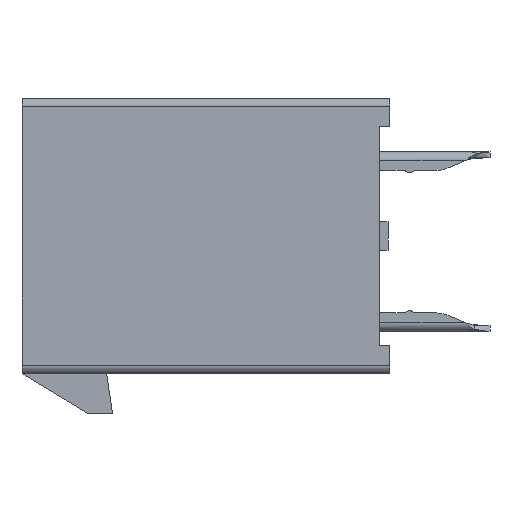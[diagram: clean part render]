
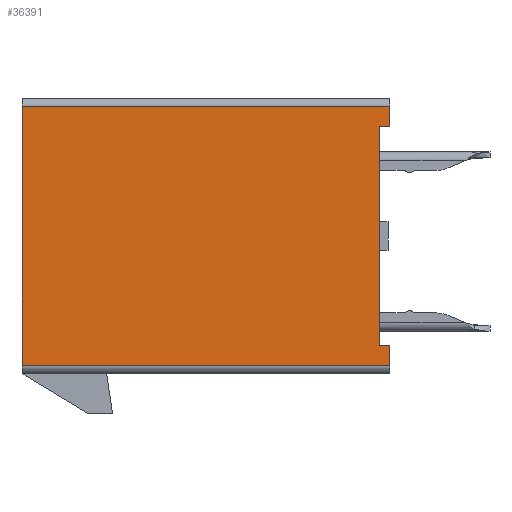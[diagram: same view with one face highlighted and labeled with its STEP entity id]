
A CAD part, left-side view. The second image highlights one B-rep face of the part: STEP entity #36391.
In plain terms, the highlighted planar face has unit normal (-1, 0, 0).
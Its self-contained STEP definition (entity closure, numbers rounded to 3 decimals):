
#1=DIRECTION('',(0.,0.,-1.));
#2=VECTOR('',#1,9.);
#3=CARTESIAN_POINT('',(-10.484,16.45,-0.3));
#4=LINE('',#3,#2);
#207=DIRECTION('',(0.,0.,-1.));
#208=VECTOR('',#207,0.7);
#209=CARTESIAN_POINT('',(-10.484,3.65,-0.3));
#210=LINE('',#209,#208);
#211=DIRECTION('',(0.,1.,0.));
#212=VECTOR('',#211,0.35);
#213=CARTESIAN_POINT('',(-10.484,3.65,-1.));
#214=LINE('',#213,#212);
#215=DIRECTION('',(0.,-1.,0.));
#216=VECTOR('',#215,0.35);
#217=CARTESIAN_POINT('',(-10.484,4.,-8.6));
#218=LINE('',#217,#216);
#219=DIRECTION('',(0.,0.,-1.));
#220=VECTOR('',#219,0.7);
#221=CARTESIAN_POINT('',(-10.484,3.65,-8.6));
#222=LINE('',#221,#220);
#227=DIRECTION('',(0.,1.,0.));
#228=VECTOR('',#227,12.8);
#229=CARTESIAN_POINT('',(-10.484,3.65,-0.3));
#230=LINE('',#229,#228);
#631=DIRECTION('',(0.,-1.,0.));
#632=VECTOR('',#631,12.8);
#633=CARTESIAN_POINT('',(-10.484,16.45,-9.3));
#634=LINE('',#633,#632);
#2887=DIRECTION('',(0.,0.,1.));
#2888=VECTOR('',#2887,7.6);
#2889=CARTESIAN_POINT('',(-10.484,4.,-8.6));
#2890=LINE('',#2889,#2888);
#29354=CARTESIAN_POINT('',(-10.484,16.45,-0.3));
#29355=CARTESIAN_POINT('',(-10.484,16.45,-9.3));
#29356=VERTEX_POINT('',#29354);
#29357=VERTEX_POINT('',#29355);
#31625=CARTESIAN_POINT('',(-10.484,3.65,-9.3));
#31626=VERTEX_POINT('',#31625);
#31627=CARTESIAN_POINT('',(-10.484,3.65,-8.6));
#31628=VERTEX_POINT('',#31627);
#31631=CARTESIAN_POINT('',(-10.484,3.65,-0.3));
#31632=VERTEX_POINT('',#31631);
#31633=CARTESIAN_POINT('',(-10.484,3.65,-1.));
#31634=VERTEX_POINT('',#31633);
#31635=CARTESIAN_POINT('',(-10.484,4.,-1.));
#31636=VERTEX_POINT('',#31635);
#31637=CARTESIAN_POINT('',(-10.484,4.,-8.6));
#31638=VERTEX_POINT('',#31637);
#36369=CARTESIAN_POINT('',(-10.484,10.05,-1.05));
#36370=DIRECTION('',(1.,0.,0.));
#36371=DIRECTION('',(0.,0.,-1.));
#36372=AXIS2_PLACEMENT_3D('',#36369,#36370,#36371);
#36373=PLANE('',#36372);
#36374=ORIENTED_EDGE('',*,*,#36172,.F.);
#36376=ORIENTED_EDGE('',*,*,#36375,.F.);
#36378=ORIENTED_EDGE('',*,*,#36377,.T.);
#36380=ORIENTED_EDGE('',*,*,#36379,.T.);
#36382=ORIENTED_EDGE('',*,*,#36381,.F.);
#36384=ORIENTED_EDGE('',*,*,#36383,.T.);
#36386=ORIENTED_EDGE('',*,*,#36385,.T.);
#36388=ORIENTED_EDGE('',*,*,#36387,.F.);
#36389=EDGE_LOOP('',(#36374,#36376,#36378,#36380,#36382,#36384,#36386,#36388));
#36390=FACE_OUTER_BOUND('',#36389,.F.);
#36391=ADVANCED_FACE('',(#36390),#36373,.F.);
#36172=EDGE_CURVE('',#29356,#29357,#4,.T.);
#36375=EDGE_CURVE('',#31632,#29356,#230,.T.);
#36377=EDGE_CURVE('',#31632,#31634,#210,.T.);
#36379=EDGE_CURVE('',#31634,#31636,#214,.T.);
#36381=EDGE_CURVE('',#31638,#31636,#2890,.T.);
#36383=EDGE_CURVE('',#31638,#31628,#218,.T.);
#36385=EDGE_CURVE('',#31628,#31626,#222,.T.);
#36387=EDGE_CURVE('',#29357,#31626,#634,.T.);
